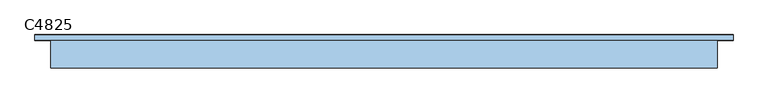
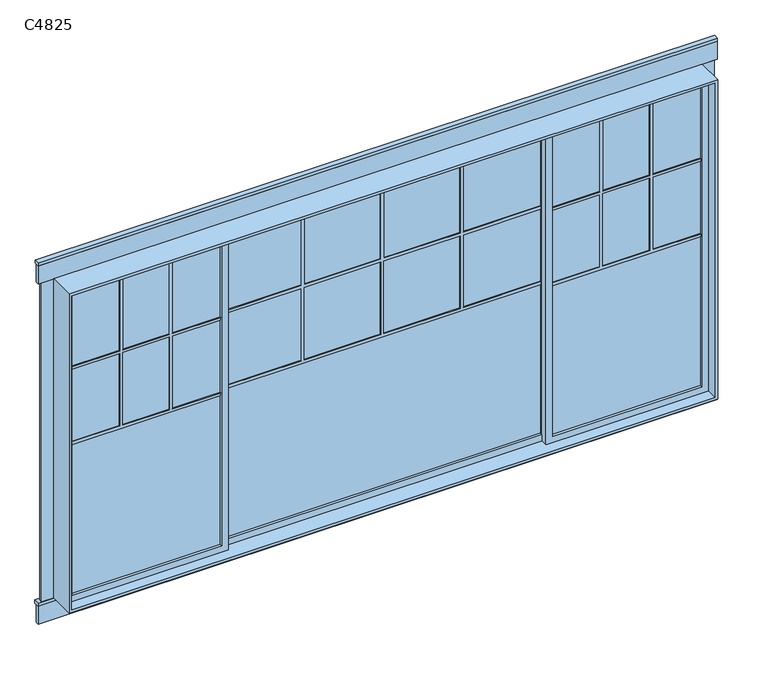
"""IFC4 building model written with IfcOpenShell, lengths in millimetres: window geometry, 推拉窗3 - 带贴面 : C4825."""

from ifc_helpers import new_model, si_unit, frame, origin, place, context, project, spatial, polyline, outline, extrude, source, transform, mapped, element, save


def c4825_28e7b31b(model_context):
    return source(origin(), model_context, "Body", "SweptSolid", [
        extrude(outline(polyline([(-1790.925, 60.0), (559.075, 60.0), (559.075, 50.0), (-1790.925, 50.0), (-1790.925, 60.0)])), frame((0.0, 0.0, 970.0), z_axis=(0.0, 0.0, 1.0), x_axis=(1.0, 0.0, 0.0)), (0.0, 0.0, 1.0), 2360.0),
        extrude(outline(polyline([(609.075, 10.0), (1714.075, 10.0), (1714.075, 0.0), (609.075, 0.0), (609.075, 10.0)])), frame((0.0, 0.0, 970.0), z_axis=(0.0, 0.0, 1.0), x_axis=(1.0, 0.0, 0.0)), (0.0, 0.0, 1.0), 2360.0),
        extrude(outline(polyline([(-2945.925, 10.0), (-1840.925, 10.0), (-1840.925, 0.0), (-2945.925, 0.0), (-2945.925, 10.0)])), frame((0.0, 0.0, 970.0), z_axis=(0.0, 0.0, 1.0), x_axis=(1.0, 0.0, 0.0)), (0.0, 0.0, 1.0), 2360.0),
        extrude(outline(polyline([(2138.8875, -2945.925), (2138.8875, -1840.925), (2161.1125, -1840.925), (2161.1125, -2198.1458333), (2728.8875, -2198.1458333), (2728.8875, -1840.925), (2751.1125, -1840.925), (2751.1125, -2198.1458333), (3330.0, -2198.1458333), (3330.0, -2220.3708333), (2751.1125, -2220.3708333), (2751.1125, -2566.4791667), (3330.0, -2566.4791667), (3330.0, -2588.7041667), (2751.1125, -2588.7041667), (2751.1125, -2945.925), (2728.8875, -2945.925), (2728.8875, -2588.7041667), (2161.1125, -2588.7041667), (2161.1125, -2945.925), (2138.8875, -2945.925)]), holes=[polyline([(2728.8875, -2566.4791667), (2728.8875, -2220.3708333), (2161.1125, -2220.3708333), (2161.1125, -2566.4791667), (2728.8875, -2566.4791667)])]), frame((0.0, -7.5, 0.0), z_axis=(0.0, 1.0, 0.0), x_axis=(0.0, 0.0, 1.0)), (0.0, 0.0, 1.0), 25.0),
        extrude(outline(polyline([(3400.0, -3015.925), (900.0, -3015.925), (900.0, 1784.075), (3400.0, 1784.075), (3400.0, -3015.925)]), holes=[polyline([(3380.0, -2995.925), (3380.0, 1764.075), (920.0, 1764.075), (920.0, -2995.925), (3380.0, -2995.925)])]), frame((0.0, -100.0, 0.0), z_axis=(0.0, 1.0, 0.0), x_axis=(0.0, 0.0, 1.0)), (0.0, 0.0, 1.0), 200.0),
        extrude(outline(polyline([(2138.8875, 609.075), (2138.8875, 1714.075), (2161.1125, 1714.075), (2161.1125, 1357.0708333), (2728.8875, 1357.0708333), (2728.8875, 1714.075), (2751.1125, 1714.075), (2751.1125, 1357.0708333), (3330.0, 1357.0708333), (3330.0, 1334.4125), (2751.1125, 1334.4125), (2751.1125, 988.5208333), (3330.0, 988.5208333), (3330.0, 966.2958333), (2751.1125, 966.2958333), (2751.1125, 609.075), (2728.8875, 609.075), (2728.8875, 966.2958333), (2161.1125, 966.2958333), (2161.1125, 609.075), (2138.8875, 609.075)]), holes=[polyline([(2728.8875, 988.5208333), (2728.8875, 1334.4125), (2161.1125, 1334.4125), (2161.1125, 988.5208333), (2728.8875, 988.5208333)])]), frame((0.0, -7.5, 0.0), z_axis=(0.0, 1.0, 0.0), x_axis=(0.0, 0.0, 1.0)), (0.0, 0.0, 1.0), 25.0),
        extrude(outline(polyline([(2751.1125, -604.8125), (3330.0, -604.8125), (3330.0, -627.0375), (2751.1125, -627.0375), (2751.1125, -1192.3125), (3330.0, -1192.3125), (3330.0, -1214.5375), (2751.1125, -1214.5375), (2751.1125, -1790.925), (2728.8875, -1790.925), (2728.8875, -1214.5375), (2161.2720722, -1214.5375), (2161.2720722, -1790.925), (2138.8875, -1790.925), (2138.8875, 559.075), (2161.2720722, 559.075), (2161.2720722, -17.3125), (2728.8875, -17.3125), (2728.8875, 559.075), (2751.1125, 559.075), (2751.1125, -17.3125), (3330.0, -17.3125), (3330.0, -39.5375), (2751.1125, -39.5375), (2751.1125, -604.8125)]), holes=[polyline([(2161.2720722, -604.8125), (2728.8875, -604.8125), (2728.8875, -39.5375), (2161.2720722, -39.5375), (2161.2720722, -604.8125)]), polyline([(2161.2720722, -1192.3125), (2729.0764639, -1192.3125), (2729.0764639, -627.0375), (2161.2720722, -627.0375), (2161.2720722, -1192.3125)])]), frame((0.0, 42.5, 0.0), z_axis=(0.0, 1.0, 0.0), x_axis=(0.0, 0.0, 1.0)), (0.0, 0.0, 1.0), 25.0),
        extrude(outline(polyline([(3380.0, 559.075), (920.0, 559.075), (920.0, 1764.075), (3380.0, 1764.075), (3380.0, 559.075)]), holes=[polyline([(3330.0, 609.075), (3330.0, 1714.075), (970.0, 1714.075), (970.0, 609.075), (3330.0, 609.075)])]), frame((0.0, -20.0, 0.0), z_axis=(0.0, 1.0, 0.0), x_axis=(0.0, 0.0, 1.0)), (0.0, 0.0, 1.0), 50.0),
        extrude(outline(polyline([(3380.0, -2995.925), (920.0, -2995.925), (920.0, -1790.925), (3380.0, -1790.925), (3380.0, -2995.925)]), holes=[polyline([(3330.0, -2945.925), (3330.0, -1840.925), (970.0, -1840.925), (970.0, -2945.925), (3330.0, -2945.925)])]), frame((0.0, -20.0, 0.0), z_axis=(0.0, 1.0, 0.0), x_axis=(0.0, 0.0, 1.0)), (0.0, 0.0, 1.0), 50.0),
        extrude(outline(polyline([(3380.0, 609.075), (3380.0, -1840.925), (920.0, -1840.925), (920.0, 609.075), (3380.0, 609.075)]), holes=[polyline([(3330.0, -1790.925), (3330.0, 559.075), (970.0, 559.075), (970.0, -1790.925), (3330.0, -1790.925)])]), frame((0.0, 30.0, 0.0), z_axis=(0.0, 1.0, 0.0), x_axis=(0.0, 0.0, 1.0)), (0.0, 0.0, 1.0), 50.0),
        extrude(outline(polyline([(-3130.925, 138.1), (1899.075, 138.1), (1899.075, 100.0), (-3130.925, 100.0), (-3130.925, 138.1)])), frame((0.0, 0.0, 3539.7), z_axis=(0.0, 0.0, 1.0), x_axis=(1.0, 0.0, 0.0)), (0.0, 0.0, 1.0), 25.4),
        extrude(outline(polyline([(-3130.925, 125.4), (1899.075, 125.4), (1899.075, 100.0), (-3130.925, 100.0), (-3130.925, 125.4)])), frame((0.0, 0.0, 3400.0), z_axis=(0.0, 0.0, 1.0), x_axis=(1.0, 0.0, 0.0)), (0.0, 0.0, 1.0), 139.7),
        extrude(outline(polyline([(-3130.225, 125.4), (1899.075, 125.4), (1899.075, 100.0), (-3130.225, 100.0), (-3130.225, 125.4)])), frame((0.0, 0.0, 734.9), z_axis=(0.0, 0.0, 1.0), x_axis=(1.0, 0.0, 0.0)), (0.0, 0.0, 1.0), 139.7),
        extrude(outline(polyline([(-3130.925, 140.0), (1899.075, 140.0), (1899.075, 100.0), (-3130.925, 100.0), (-3130.925, 140.0)])), frame((0.0, 0.0, 874.6), z_axis=(0.0, 0.0, 1.0), x_axis=(1.0, 0.0, 0.0)), (0.0, 0.0, 1.0), 25.4),
        extrude(outline(polyline([(-3105.925, 120.0), (-3015.925, 120.0), (-3015.925, 100.0), (-3105.925, 100.0), (-3105.925, 120.0)])), frame((0.0, 0.0, 900.0), z_axis=(0.0, 0.0, 1.0), x_axis=(1.0, 0.0, 0.0)), (0.0, 0.0, 1.0), 2500.0),
        extrude(outline(polyline([(1784.075, 119.05), (1874.075, 119.05), (1874.075, 100.0), (1784.075, 100.0), (1784.075, 119.05)])), frame((0.0, 0.0, 900.0), z_axis=(0.0, 0.0, 1.0), x_axis=(1.0, 0.0, 0.0)), (0.0, 0.0, 1.0), 2500.0),
    ])


if __name__ == "__main__":
    model = new_model("IFC4")
    model_context = context("Model", 3, world=origin())
    ifc_project = project(units=[si_unit("LENGTHUNIT", "METRE", prefix="MILLI")], contexts=[model_context])
    site = spatial("IfcSite", under=ifc_project)
    building = spatial("IfcBuilding", under=site)
    placement = place(None, origin())
    c4825_shape = c4825_28e7b31b(model_context)
    element("IfcWindow", 1, ObjectType="推拉窗3 - 带贴面 : C4825", at=placement, inside=building, context=model_context, shape_type="MappedRepresentation", body=[
        mapped(c4825_shape, transform((0.0, 0.0, 0.0), x_axis=(1.0, 0.0, 0.0), y_axis=(0.0, 1.0, 0.0), z_axis=(0.0, 0.0, 1.0))),
    ])
    save(model, "model.ifc")
